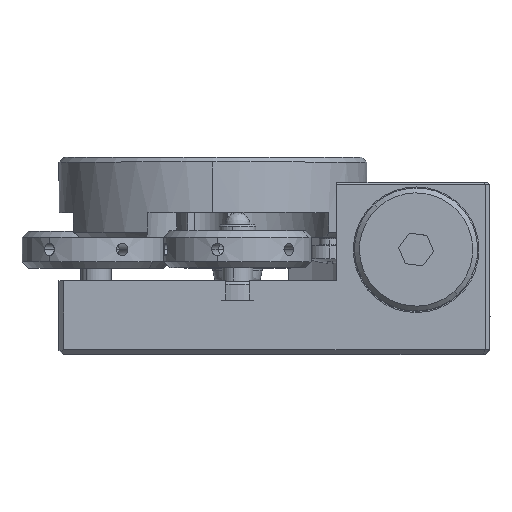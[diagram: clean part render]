
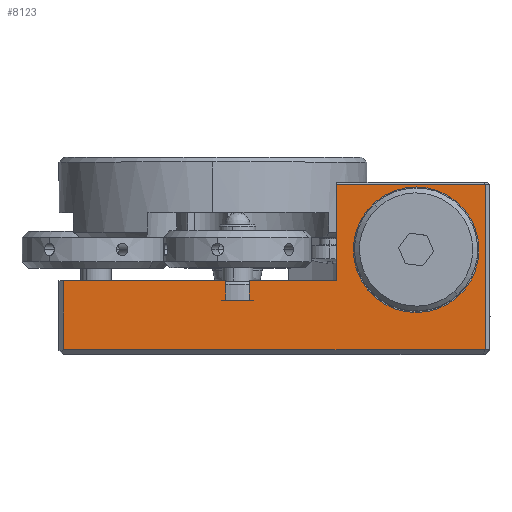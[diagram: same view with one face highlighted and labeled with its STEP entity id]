
A CAD part, top view. The second image highlights one B-rep face of the part: STEP entity #8123.
In plain terms, the highlighted planar face has unit normal (0, 0, 1).
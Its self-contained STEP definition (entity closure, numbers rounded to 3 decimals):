
#754 = CARTESIAN_POINT ( 'NONE',  ( -4.072, 10.621, 39.835 ) ) ;
#1392 = DIRECTION ( 'NONE',  ( 1., 0., 0. ) ) ;
#1475 = CARTESIAN_POINT ( 'NONE',  ( 11.389, 24.221, 39.835 ) ) ;
#1742 = AXIS2_PLACEMENT_3D ( 'NONE', #20417, #10759, #17525 ) ;
#2566 = EDGE_CURVE ( 'NONE', #26321, #11058, #32422, .T. ) ;
#2782 = VERTEX_POINT ( 'NONE', #7443 ) ;
#2875 = CARTESIAN_POINT ( 'NONE',  ( 8.428, 16.221, 39.835 ) ) ;
#4899 = DIRECTION ( 'NONE',  ( 1., 0., 0. ) ) ;
#4991 = VERTEX_POINT ( 'NONE', #36957 ) ;
#5137 = ORIENTED_EDGE ( 'NONE', *, *, #37715, .F. ) ;
#5395 = CIRCLE ( 'NONE', #1742, 5.1 ) ;
#5857 = ORIENTED_EDGE ( 'NONE', *, *, #32780, .F. ) ;
#6480 = LINE ( 'NONE', #10918, #17252 ) ;
#6660 = FACE_BOUND ( 'NONE', #7244, .T. ) ;
#7028 = DIRECTION ( 'NONE',  ( 1., 0., 0. ) ) ;
#7089 = ORIENTED_EDGE ( 'NONE', *, *, #16016, .F. ) ;
#7244 = EDGE_LOOP ( 'NONE', ( #7622, #7089 ) ) ;
#7443 = CARTESIAN_POINT ( 'NONE',  ( -3.672, 16.221, 39.835 ) ) ;
#7622 = ORIENTED_EDGE ( 'NONE', *, *, #19869, .F. ) ;
#8123 = ADVANCED_FACE ( 'NONE', ( #24677, #6660 ), #40480, .F. ) ;
#8168 = DIRECTION ( 'NONE',  ( 1., 0., 0. ) ) ;
#8444 = ORIENTED_EDGE ( 'NONE', *, *, #2566, .F. ) ;
#8612 = CARTESIAN_POINT ( 'NONE',  ( -4.072, 24.221, 39.835 ) ) ;
#9222 = VECTOR ( 'NONE', #35532, 1000. ) ;
#9319 = EDGE_CURVE ( 'NONE', #36070, #42244, #12573, .T. ) ;
#9701 = CARTESIAN_POINT ( 'NONE',  ( 9.468, 24.221, 39.835 ) ) ;
#9848 = VERTEX_POINT ( 'NONE', #26272 ) ;
#10048 = VECTOR ( 'NONE', #7028, 1000. ) ;
#10269 = VECTOR ( 'NONE', #20107, 1000. ) ;
#10759 = DIRECTION ( 'NONE',  ( 0., 0., 1. ) ) ;
#10918 = CARTESIAN_POINT ( 'NONE',  ( -4.072, 24.021, 39.835 ) ) ;
#11058 = VERTEX_POINT ( 'NONE', #41780 ) ;
#11329 = VECTOR ( 'NONE', #8168, 1000. ) ;
#11438 = CARTESIAN_POINT ( 'NONE',  ( 24.928, 18.721, 39.835 ) ) ;
#12150 = DIRECTION ( 'NONE',  ( 1., 0., 0. ) ) ;
#12573 = LINE ( 'NONE', #40547, #35685 ) ;
#13582 = CARTESIAN_POINT ( 'NONE',  ( -3.672, 24.221, 39.835 ) ) ;
#14564 = CARTESIAN_POINT ( 'NONE',  ( 30.528, 10.621, 39.835 ) ) ;
#14756 = VERTEX_POINT ( 'NONE', #19797 ) ;
#14926 = DIRECTION ( 'NONE',  ( 0., 0., -1. ) ) ;
#15501 = DIRECTION ( 'NONE',  ( 0., 1., 0. ) ) ;
#15777 = LINE ( 'NONE', #18729, #26582 ) ;
#15962 = VECTOR ( 'NONE', #37839, 1000. ) ;
#16016 = EDGE_CURVE ( 'NONE', #35404, #18487, #30353, .T. ) ;
#16197 = EDGE_CURVE ( 'NONE', #9848, #14756, #41600, .T. ) ;
#16262 = VERTEX_POINT ( 'NONE', #25682 ) ;
#17252 = VECTOR ( 'NONE', #1392, 1000. ) ;
#17525 = DIRECTION ( 'NONE',  ( 1., 0., 0. ) ) ;
#18072 = DIRECTION ( 'NONE',  ( 0., 0., 1. ) ) ;
#18487 = VERTEX_POINT ( 'NONE', #40332 ) ;
#18561 = VECTOR ( 'NONE', #15501, 1000. ) ;
#18729 = CARTESIAN_POINT ( 'NONE',  ( 8.428, 16.221, 39.835 ) ) ;
#19011 = VECTOR ( 'NONE', #12150, 1000. ) ;
#19797 = CARTESIAN_POINT ( 'NONE',  ( 9.468, 14.621, 39.835 ) ) ;
#19869 = EDGE_CURVE ( 'NONE', #18487, #35404, #5395, .T. ) ;
#20103 = LINE ( 'NONE', #1475, #15962 ) ;
#20107 = DIRECTION ( 'NONE',  ( 0., 1., 0. ) ) ;
#20417 = CARTESIAN_POINT ( 'NONE',  ( 24.928, 18.721, 39.835 ) ) ;
#20580 = LINE ( 'NONE', #21211, #11329 ) ;
#20894 = DIRECTION ( 'NONE',  ( 0., -1., 0. ) ) ;
#21211 = CARTESIAN_POINT ( 'NONE',  ( -4.072, 14.621, 39.835 ) ) ;
#21742 = CARTESIAN_POINT ( 'NONE',  ( 18.428, 16.221, 39.835 ) ) ;
#22449 = ORIENTED_EDGE ( 'NONE', *, *, #9319, .F. ) ;
#24113 = EDGE_CURVE ( 'NONE', #4991, #42244, #37289, .T. ) ;
#24499 = CARTESIAN_POINT ( 'NONE',  ( 30.528, 24.021, 39.835 ) ) ;
#24677 = FACE_OUTER_BOUND ( 'NONE', #38318, .T. ) ;
#25166 = CARTESIAN_POINT ( 'NONE',  ( 18.428, 24.221, 39.835 ) ) ;
#25486 = DIRECTION ( 'NONE',  ( 1., 0., 0. ) ) ;
#25682 = CARTESIAN_POINT ( 'NONE',  ( 11.389, 16.221, 39.835 ) ) ;
#26272 = CARTESIAN_POINT ( 'NONE',  ( 9.468, 16.221, 39.835 ) ) ;
#26321 = VERTEX_POINT ( 'NONE', #21742 ) ;
#26582 = VECTOR ( 'NONE', #25486, 1000. ) ;
#26895 = AXIS2_PLACEMENT_3D ( 'NONE', #8612, #14926, #38303 ) ;
#27228 = LINE ( 'NONE', #13582, #10269 ) ;
#27741 = LINE ( 'NONE', #2875, #19011 ) ;
#28709 = AXIS2_PLACEMENT_3D ( 'NONE', #11438, #18072, #4899 ) ;
#28799 = CARTESIAN_POINT ( 'NONE',  ( 11.389, 14.621, 39.835 ) ) ;
#29698 = CARTESIAN_POINT ( 'NONE',  ( 19.828, 18.721, 39.835 ) ) ;
#30353 = CIRCLE ( 'NONE', #28709, 5.1 ) ;
#30686 = ORIENTED_EDGE ( 'NONE', *, *, #24113, .T. ) ;
#32295 = ORIENTED_EDGE ( 'NONE', *, *, #37270, .F. ) ;
#32422 = LINE ( 'NONE', #25166, #18561 ) ;
#32566 = ORIENTED_EDGE ( 'NONE', *, *, #39640, .F. ) ;
#32780 = EDGE_CURVE ( 'NONE', #16262, #26321, #27741, .T. ) ;
#33788 = ORIENTED_EDGE ( 'NONE', *, *, #36461, .F. ) ;
#35404 = VERTEX_POINT ( 'NONE', #29698 ) ;
#35532 = DIRECTION ( 'NONE',  ( 0., -1., 0. ) ) ;
#35685 = VECTOR ( 'NONE', #20894, 1000. ) ;
#36070 = VERTEX_POINT ( 'NONE', #24499 ) ;
#36305 = ORIENTED_EDGE ( 'NONE', *, *, #16197, .F. ) ;
#36461 = EDGE_CURVE ( 'NONE', #4991, #2782, #27228, .T. ) ;
#36957 = CARTESIAN_POINT ( 'NONE',  ( -3.672, 10.621, 39.835 ) ) ;
#37270 = EDGE_CURVE ( 'NONE', #2782, #9848, #15777, .T. ) ;
#37289 = LINE ( 'NONE', #754, #10048 ) ;
#37715 = EDGE_CURVE ( 'NONE', #11058, #36070, #6480, .T. ) ;
#37839 = DIRECTION ( 'NONE',  ( 0., 1., 0. ) ) ;
#38303 = DIRECTION ( 'NONE',  ( -1., 0., 0. ) ) ;
#38318 = EDGE_LOOP ( 'NONE', ( #8444, #5857, #32566, #39955, #36305, #32295, #33788, #30686, #22449, #5137 ) ) ;
#38334 = VERTEX_POINT ( 'NONE', #28799 ) ;
#39640 = EDGE_CURVE ( 'NONE', #38334, #16262, #20103, .T. ) ;
#39698 = EDGE_CURVE ( 'NONE', #14756, #38334, #20580, .T. ) ;
#39955 = ORIENTED_EDGE ( 'NONE', *, *, #39698, .F. ) ;
#40332 = CARTESIAN_POINT ( 'NONE',  ( 30.028, 18.721, 39.835 ) ) ;
#40480 = PLANE ( 'NONE',  #26895 ) ;
#40547 = CARTESIAN_POINT ( 'NONE',  ( 30.528, 24.221, 39.835 ) ) ;
#41600 = LINE ( 'NONE', #9701, #9222 ) ;
#41780 = CARTESIAN_POINT ( 'NONE',  ( 18.428, 24.021, 39.835 ) ) ;
#42244 = VERTEX_POINT ( 'NONE', #14564 ) ;
